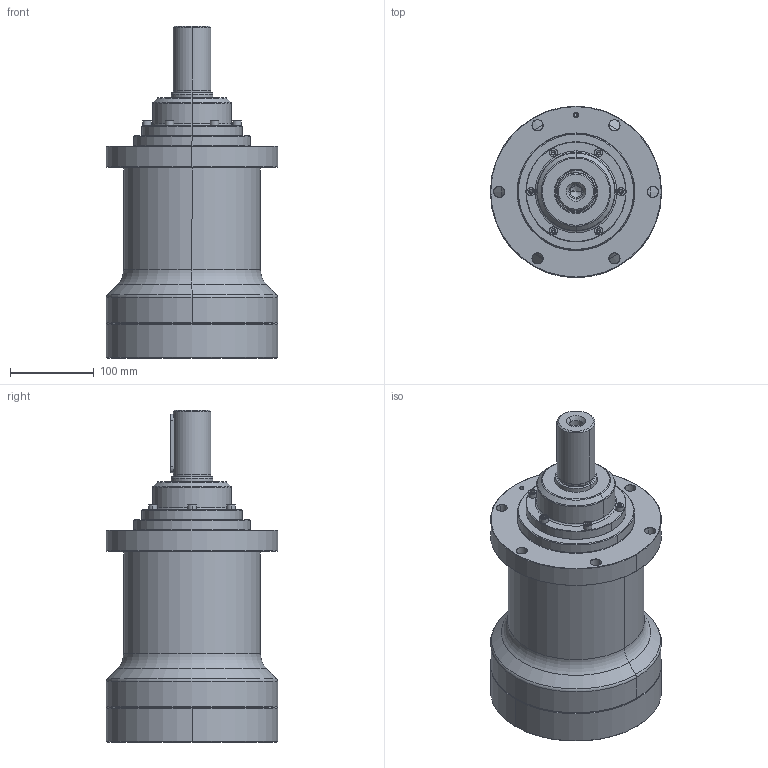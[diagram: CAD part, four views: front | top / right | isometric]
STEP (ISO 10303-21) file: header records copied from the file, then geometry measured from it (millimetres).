
FILE_DESCRIPTION((''),'2;1');
FILE_NAME('M12F120B','2023-10-19T',('HYC'),(''),'PRO/ENGINEER BY PARAMETRIC TECHNOLOGY CORPORATION, 2010280','PRO/ENGINEER BY PARAMETRIC TECHNOLOGY CORPORATION, 2010280','');
FILE_SCHEMA(('CONFIG_CONTROL_DESIGN'));
Length unit declared in the file: millimetre
Products named in the file (1): M12F120B
Bounding box: 205 x 205 x 397.5 mm (x, y, z)
Surface area: 326137.2 mm2 (no closed solid volume)
Topology: 0 solids, 26 shells, 437 faces, 1045 edges, 613 vertices
Faces by surface type: cone 214, cylinder 106, plane 97, torus 20
Entity records: 12938 total; most frequent: CARTESIAN_POINT 2853, DIRECTION 2343, ORIENTED_EDGE 1806, EDGE_CURVE 1007, AXIS2_PLACEMENT_3D 971, VERTEX_POINT 613, CIRCLE 534, EDGE_LOOP 501
